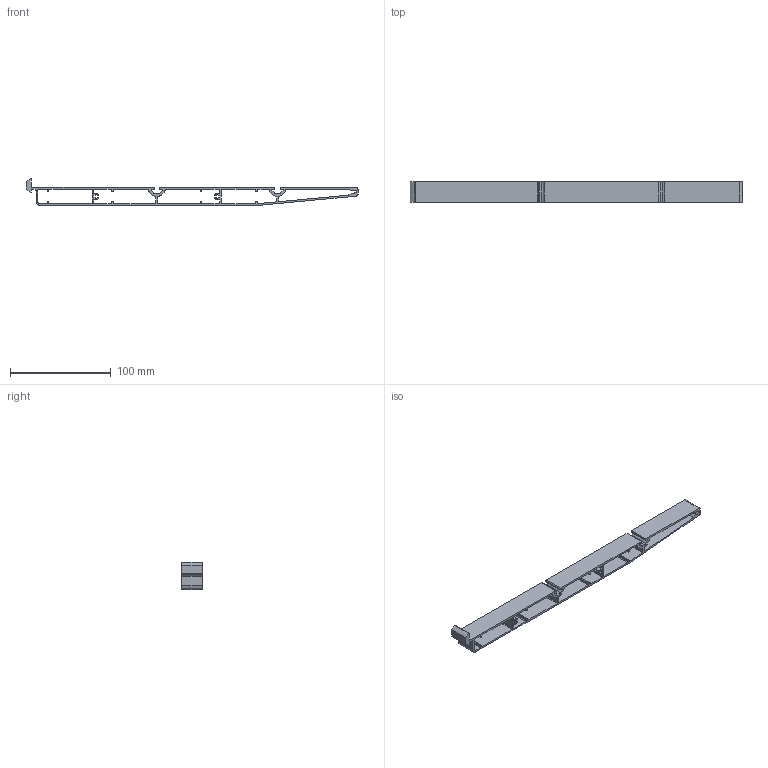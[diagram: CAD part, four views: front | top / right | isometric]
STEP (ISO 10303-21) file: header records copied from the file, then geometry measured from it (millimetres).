
FILE_DESCRIPTION(('STEP AP214'),'1');
FILE_NAME('cctmp_4D5F7586-D71E-4834-AA13-1950194F2CFD_2023_04_28_15_23_55_0528_37760..stp','2023-04-28T13:23:55',('item Industrietechnik GmbH'),('CADClick - www.CADClick.com'),'Spatial InterOp 3D',' ','unknown authorization');
FILE_SCHEMA(('AUTOMOTIVE_DESIGN'));
Length unit declared in the file: millimetre
Products named in the file (2): item_0062100_Shelf Profile 8 320_L=20; item_0062100_Shelf Profile 8 320_L=20_1
Assembly tree (1 placements, depth 2):
  item_0062100_Shelf Profile 8 320_L=20
    item_0062100_Shelf Profile 8 320_L=20_1
Bounding box: 330 x 20 x 26.9 mm (x, y, z)
Volume: 29505.3 mm3; surface area: 33693.7 mm2
Topology: 1 solids, 1 shells, 230 faces, 684 edges, 456 vertices
Faces by surface type: cylinder 131, plane 99
Entity records: 9721 total; most frequent: DIRECTION 1410, CARTESIAN_POINT 1372, ORIENTED_EDGE 1368, EDGE_CURVE 684, AXIS2_PLACEMENT_3D 494, VERTEX_POINT 456, LINE 422, VECTOR 422
